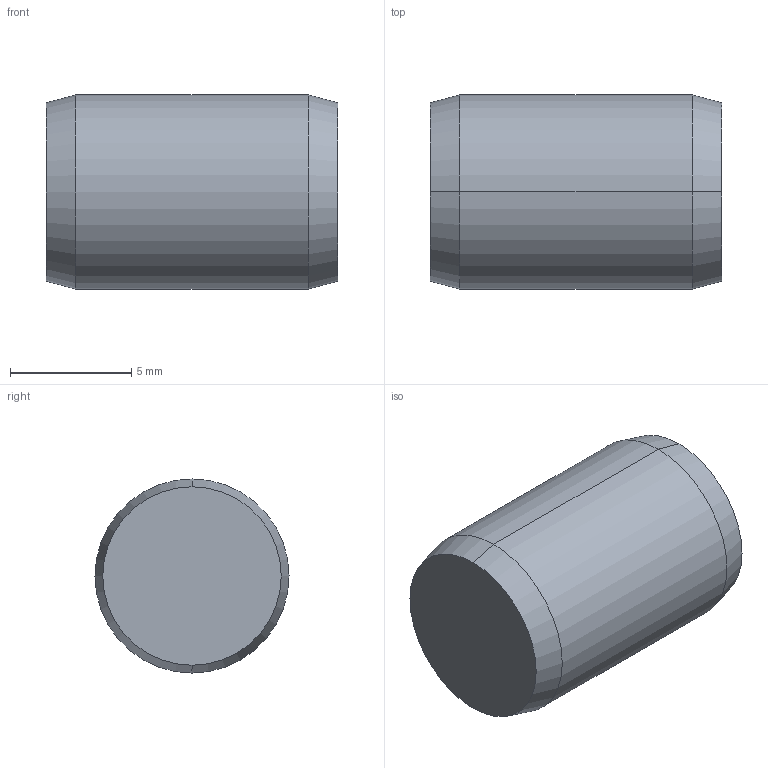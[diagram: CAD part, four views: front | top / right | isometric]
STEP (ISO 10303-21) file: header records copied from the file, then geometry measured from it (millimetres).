
FILE_DESCRIPTION (( 'STEP AP203' ), '1' );
FILE_NAME ('P1206.080-012.step', '2017-06-14T08:24:52', ( 'User' ), ( '' ), 'SwSTEP 2.0', 'SolidWorks 2009', '' );
FILE_SCHEMA (( 'CONFIG_CONTROL_DESIGN' ));
Length unit declared in the file: millimetre
Products named in the file (1): P1206.080-012
Bounding box: 12 x 8 x 8 mm (x, y, z)
Volume: 593.7 mm3; surface area: 386.2 mm2
Topology: 1 solids, 1 shells, 8 faces, 14 edges, 8 vertices
Faces by surface type: cone 4, cylinder 2, plane 2
Entity records: 271 total; most frequent: DIRECTION 40, CARTESIAN_POINT 31, ORIENTED_EDGE 28, AXIS2_PLACEMENT_3D 17, EDGE_CURVE 14, CIRCLE 8, FACE_OUTER_BOUND 8, PERSON_AND_ORGANIZATION 8
